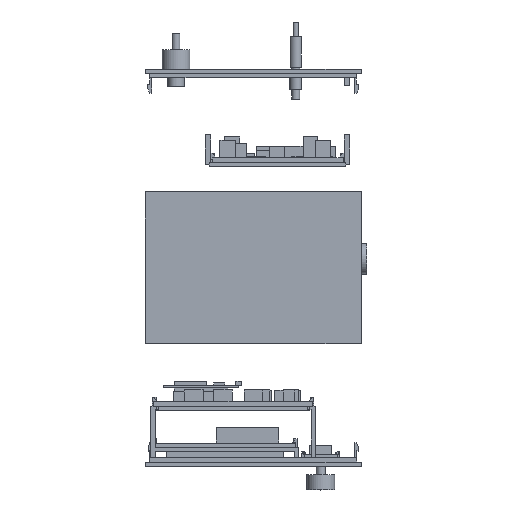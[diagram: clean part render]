
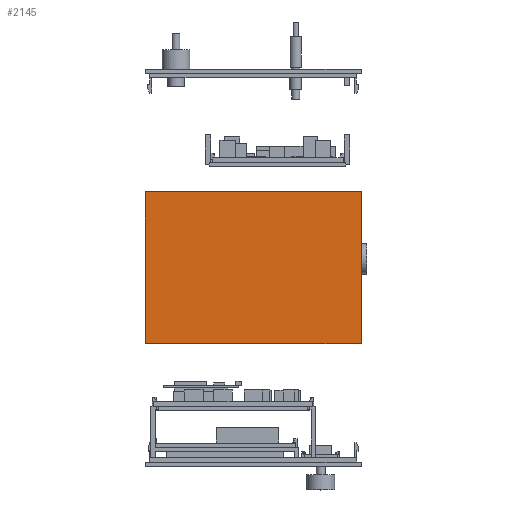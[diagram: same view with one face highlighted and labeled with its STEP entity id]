
A CAD part, top view. The second image highlights one B-rep face of the part: STEP entity #2145.
In plain terms, the highlighted planar face has unit normal (0, 0, 1).
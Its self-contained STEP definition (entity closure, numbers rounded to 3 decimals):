
#454 = VERTEX_POINT('',#455);
#455 = CARTESIAN_POINT('',(0.,3.,100.));
#462 = PLANE('',#463);
#463 = AXIS2_PLACEMENT_3D('',#464,#465,#466);
#464 = CARTESIAN_POINT('',(0.,3.,0.));
#465 = DIRECTION('',(1.,0.,0.));
#466 = DIRECTION('',(0.,0.,1.));
#474 = PLANE('',#475);
#475 = AXIS2_PLACEMENT_3D('',#476,#477,#478);
#476 = CARTESIAN_POINT('',(0.,3.,0.));
#477 = DIRECTION('',(0.,1.,0.));
#478 = DIRECTION('',(0.,0.,1.));
#515 = VERTEX_POINT('',#516);
#516 = CARTESIAN_POINT('',(0.,112.,100.));
#530 = PLANE('',#531);
#531 = AXIS2_PLACEMENT_3D('',#532,#533,#534);
#532 = CARTESIAN_POINT('',(0.,112.,0.));
#533 = DIRECTION('',(0.,1.,0.));
#534 = DIRECTION('',(0.,0.,1.));
#542 = EDGE_CURVE('',#454,#515,#543,.T.);
#543 = SURFACE_CURVE('',#544,(#548,#555),.PCURVE_S1.);
#544 = LINE('',#545,#546);
#545 = CARTESIAN_POINT('',(0.,3.,100.));
#546 = VECTOR('',#547,1.);
#547 = DIRECTION('',(0.,1.,0.));
#548 = PCURVE('',#462,#549);
#549 = DEFINITIONAL_REPRESENTATION('',(#550),#554);
#550 = LINE('',#551,#552);
#551 = CARTESIAN_POINT('',(100.,0.));
#552 = VECTOR('',#553,1.);
#553 = DIRECTION('',(0.,-1.));
#554 = ( GEOMETRIC_REPRESENTATION_CONTEXT(2) 
PARAMETRIC_REPRESENTATION_CONTEXT() REPRESENTATION_CONTEXT('2D SPACE',''
  ) );
#555 = PCURVE('',#556,#561);
#556 = PLANE('',#557);
#557 = AXIS2_PLACEMENT_3D('',#558,#559,#560);
#558 = CARTESIAN_POINT('',(0.,3.,100.));
#559 = DIRECTION('',(0.,0.,1.));
#560 = DIRECTION('',(1.,0.,0.));
#561 = DEFINITIONAL_REPRESENTATION('',(#562),#566);
#562 = LINE('',#563,#564);
#563 = CARTESIAN_POINT('',(0.,0.));
#564 = VECTOR('',#565,1.);
#565 = DIRECTION('',(0.,1.));
#566 = ( GEOMETRIC_REPRESENTATION_CONTEXT(2) 
PARAMETRIC_REPRESENTATION_CONTEXT() REPRESENTATION_CONTEXT('2D SPACE',''
  ) );
#1983 = EDGE_CURVE('',#454,#1984,#1986,.T.);
#1984 = VERTEX_POINT('',#1985);
#1985 = CARTESIAN_POINT('',(155.,3.,100.));
#1986 = SURFACE_CURVE('',#1987,(#1991,#1998),.PCURVE_S1.);
#1987 = LINE('',#1988,#1989);
#1988 = CARTESIAN_POINT('',(0.,3.,100.));
#1989 = VECTOR('',#1990,1.);
#1990 = DIRECTION('',(1.,0.,0.));
#1991 = PCURVE('',#474,#1992);
#1992 = DEFINITIONAL_REPRESENTATION('',(#1993),#1997);
#1993 = LINE('',#1994,#1995);
#1994 = CARTESIAN_POINT('',(100.,0.));
#1995 = VECTOR('',#1996,1.);
#1996 = DIRECTION('',(0.,1.));
#1997 = ( GEOMETRIC_REPRESENTATION_CONTEXT(2) 
PARAMETRIC_REPRESENTATION_CONTEXT() REPRESENTATION_CONTEXT('2D SPACE',''
  ) );
#1998 = PCURVE('',#556,#1999);
#1999 = DEFINITIONAL_REPRESENTATION('',(#2000),#2004);
#2000 = LINE('',#2001,#2002);
#2001 = CARTESIAN_POINT('',(0.,0.));
#2002 = VECTOR('',#2003,1.);
#2003 = DIRECTION('',(1.,0.));
#2004 = ( GEOMETRIC_REPRESENTATION_CONTEXT(2) 
PARAMETRIC_REPRESENTATION_CONTEXT() REPRESENTATION_CONTEXT('2D SPACE',''
  ) );
#2020 = PLANE('',#2021);
#2021 = AXIS2_PLACEMENT_3D('',#2022,#2023,#2024);
#2022 = CARTESIAN_POINT('',(155.,3.,0.));
#2023 = DIRECTION('',(1.,0.,0.));
#2024 = DIRECTION('',(0.,0.,1.));
#2145 = ADVANCED_FACE('',(#2146),#556,.T.);
#2146 = FACE_BOUND('',#2147,.T.);
#2147 = EDGE_LOOP('',(#2148,#2149,#2150,#2173));
#2148 = ORIENTED_EDGE('',*,*,#542,.F.);
#2149 = ORIENTED_EDGE('',*,*,#1983,.T.);
#2150 = ORIENTED_EDGE('',*,*,#2151,.T.);
#2151 = EDGE_CURVE('',#1984,#2152,#2154,.T.);
#2152 = VERTEX_POINT('',#2153);
#2153 = CARTESIAN_POINT('',(155.,112.,100.));
#2154 = SURFACE_CURVE('',#2155,(#2159,#2166),.PCURVE_S1.);
#2155 = LINE('',#2156,#2157);
#2156 = CARTESIAN_POINT('',(155.,3.,100.));
#2157 = VECTOR('',#2158,1.);
#2158 = DIRECTION('',(0.,1.,0.));
#2159 = PCURVE('',#556,#2160);
#2160 = DEFINITIONAL_REPRESENTATION('',(#2161),#2165);
#2161 = LINE('',#2162,#2163);
#2162 = CARTESIAN_POINT('',(155.,0.));
#2163 = VECTOR('',#2164,1.);
#2164 = DIRECTION('',(0.,1.));
#2165 = ( GEOMETRIC_REPRESENTATION_CONTEXT(2) 
PARAMETRIC_REPRESENTATION_CONTEXT() REPRESENTATION_CONTEXT('2D SPACE',''
  ) );
#2166 = PCURVE('',#2020,#2167);
#2167 = DEFINITIONAL_REPRESENTATION('',(#2168),#2172);
#2168 = LINE('',#2169,#2170);
#2169 = CARTESIAN_POINT('',(100.,0.));
#2170 = VECTOR('',#2171,1.);
#2171 = DIRECTION('',(0.,-1.));
#2172 = ( GEOMETRIC_REPRESENTATION_CONTEXT(2) 
PARAMETRIC_REPRESENTATION_CONTEXT() REPRESENTATION_CONTEXT('2D SPACE',''
  ) );
#2173 = ORIENTED_EDGE('',*,*,#2174,.F.);
#2174 = EDGE_CURVE('',#515,#2152,#2175,.T.);
#2175 = SURFACE_CURVE('',#2176,(#2180,#2187),.PCURVE_S1.);
#2176 = LINE('',#2177,#2178);
#2177 = CARTESIAN_POINT('',(0.,112.,100.));
#2178 = VECTOR('',#2179,1.);
#2179 = DIRECTION('',(1.,0.,0.));
#2180 = PCURVE('',#556,#2181);
#2181 = DEFINITIONAL_REPRESENTATION('',(#2182),#2186);
#2182 = LINE('',#2183,#2184);
#2183 = CARTESIAN_POINT('',(0.,109.));
#2184 = VECTOR('',#2185,1.);
#2185 = DIRECTION('',(1.,0.));
#2186 = ( GEOMETRIC_REPRESENTATION_CONTEXT(2) 
PARAMETRIC_REPRESENTATION_CONTEXT() REPRESENTATION_CONTEXT('2D SPACE',''
  ) );
#2187 = PCURVE('',#530,#2188);
#2188 = DEFINITIONAL_REPRESENTATION('',(#2189),#2193);
#2189 = LINE('',#2190,#2191);
#2190 = CARTESIAN_POINT('',(100.,0.));
#2191 = VECTOR('',#2192,1.);
#2192 = DIRECTION('',(0.,1.));
#2193 = ( GEOMETRIC_REPRESENTATION_CONTEXT(2) 
PARAMETRIC_REPRESENTATION_CONTEXT() REPRESENTATION_CONTEXT('2D SPACE',''
  ) );
